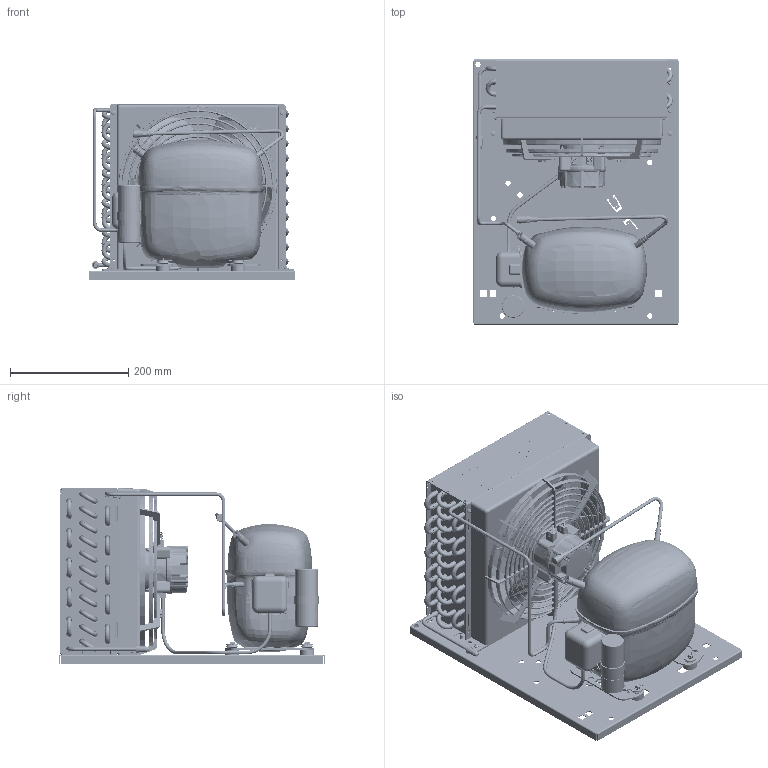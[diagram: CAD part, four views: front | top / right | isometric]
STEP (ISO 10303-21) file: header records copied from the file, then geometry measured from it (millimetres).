
FILE_DESCRIPTION(/* description */ ('Unknown'),/* implementation_level */ '2;1');
FILE_NAME(/* name */ '2298-0019',/* time_stamp */ '2022-01-10T14:51:13+01:00',/* author */ ('Unknown'),/* organization */ ('Unknown'),/* preprocessor_version */ 'ST-DEVELOPER v16.7',/* originating_system */ 'Solid Edge',/* authorisation */ 'Unknown');
FILE_SCHEMA (('AUTOMOTIVE_DESIGN {1 0 10303 214 3 1 1}'));
Products named in the file (43): 2298-0019; 92505122_oa_0; SC15CLX.2-A-CSIR; sc15mlx-a-csir_104B0078_ASM; sc15mlx-a-csir_104B0605; sc15mlx-a-csir_104B0494; sc15mlx-a-csir_103B0887; sc15mlx-a-csir_104B1402; sc15mlx-a-csir_104B0321; sc15mlx-a-csir_104B0485; sc15mlx-a-csir_103N0510; sc15mlx-a-csir_103N2009; sc15mlx-a-csir_117U5017; cg254n; 1140270f71; r50115206; r59700314; r50115207; 2990210; r50115201; r50006108; 62010155_oa_0; A254-28; 84RM10X21XXPIAF00; sc18cl-a-csr_piedino; 84v1.8x35xxcopf00; 99540010; 84a4.2x9.5xtbcf01; 84t4.8x8xxxtcca00_oa_1; 84t4.8x8xxxtcca00_oa_2; 84t4.8x8xxxtcca00_oa_3; 84t4.8x8xxxtcca00_oa_4; 99510248_05; 8351_2; 8392_A; 99510248_tubo_04; 84dm4x3.6xxesrf00; 99000082_secop; 680063692; 99000082_SECOP_F-GAS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
Assembly tree (100 placements, depth 4):
  2298-0019
    92505122_oa_0
    SC15CLX.2-A-CSIR
      sc15mlx-a-csir_104B0078_ASM
        sc15mlx-a-csir_104B0605
        sc15mlx-a-csir_104B0494
        sc15mlx-a-csir_103B0887
      sc15mlx-a-csir_104B1402
      sc15mlx-a-csir_104B0321  x2
      sc15mlx-a-csir_104B0485
      sc15mlx-a-csir_103N0510
      sc15mlx-a-csir_103N2009
      sc15mlx-a-csir_117U5017
    cg254n
    1140270f71
      r50115206
      r59700314  x22
      r50115207
      2990210  x21
      r50115201
      r50006108
    62010155_oa_0
    A254-28
    84RM10X21XXPIAF00  x4
    sc18cl-a-csr_piedino  x4
    84v1.8x35xxcopf00  x4
    99540010  x2
    84a4.2x9.5xtbcf01  x4
    84t4.8x8xxxtcca00_oa_1
    84t4.8x8xxxtcca00_oa_2
    84t4.8x8xxxtcca00_oa_3
    84t4.8x8xxxtcca00_oa_4
    99510248_05
      8351_2
      8392_A
      99510248_tubo_04
    84dm4x3.6xxesrf00  x4
    99000082_secop
    680063692
    99000082_SECOP_F-GAS
    9221-0002
    2298-0019_cavo_ventola
    6803-1235
Bounding box: 350 x 450 x 297.36 mm (x, y, z)
Volume: 7359518.5 mm3; surface area: 2722379.7 mm2
Topology: 96 solids, 96 shells, 10252 faces, 26456 edges, 16903 vertices
Faces by surface type: plane 4740, bspline 1860, cylinder 1849, torus 1122, cone 585, sphere 96
Full cylindrical faces by diameter (mm): 0.5 x1, 1 x1, 1.8 x20, 2.2 x8, 2.45 x6, 2.7 x4, 3 x4, 3.14 x6, 3.2 x2, 3.242 x4, 3.5 x16, 3.6 x4, 4 x11, 4.2 x12, 4.205 x11, 4.5 x6, 4.66 x4, 4.7 x4, 4.8 x2, 4.95 x1, 5 x14, 5.4 x4, 5.42 x1, 5.5 x15, 5.6 x1, 6 x16, 6.5 x2, 6.93 x42, 7 x10, 7.2 x2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
Entity records: 522598 total; most frequent: CARTESIAN_POINT 285367, ORIENTED_EDGE 47092, DIRECTION 37549, EDGE_CURVE 23546, VERTEX_POINT 15632, AXIS2_PLACEMENT_3D 12896, LINE 11757, VECTOR 11757
